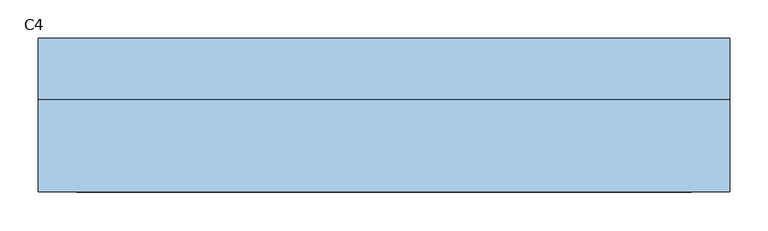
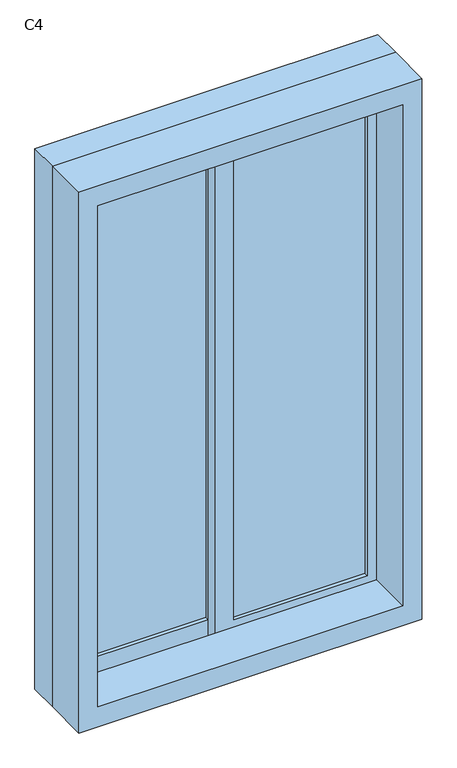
"""IFC4 building model written with IfcOpenShell, lengths in millimetres: window geometry, 推拉窗6 : C4."""

from ifc_helpers import new_model, si_unit, frame, origin, place, context, project, spatial, polyline, outline, extrude, source, transform, mapped, element, save


def c4_cd7c24a5(model_context):
    return source(origin(), model_context, "Body", "SweptSolid", [
        extrude(outline(polyline([(-365.475, 3.1265625), (-15.475, 3.1265625), (-15.475, -6.8734375), (-365.475, -6.8734375), (-365.475, 3.1265625)])), frame((0.0, 0.0, 975.0), z_axis=(0.0, 0.0, 1.0), x_axis=(1.0, 0.0, 0.0)), (0.0, 0.0, 1.0), 1350.0),
        extrude(outline(polyline([(34.525, -26.8734375), (384.525, -26.8734375), (384.525, -36.8734375), (34.525, -36.8734375), (34.525, -26.8734375)])), frame((0.0, 0.0, 975.0), z_axis=(0.0, 0.0, 1.0), x_axis=(1.0, 0.0, 0.0)), (0.0, 0.0, 1.0), 1350.0),
        extrude(outline(polyline([(2400.0, -440.475), (900.0, -440.475), (900.0, 459.525), (2400.0, 459.525), (2400.0, -440.475)]), holes=[polyline([(2345.0, 409.525), (955.0, 409.525), (955.0, -390.475), (2345.0, -390.475), (2345.0, 409.525)])]), frame((0.0, -166.8734375, 0.0), z_axis=(0.0, 1.0, 0.0), x_axis=(0.0, 0.0, 1.0)), (0.0, 0.0, 1.0), 120.0),
        extrude(outline(polyline([(925.0, 34.525), (2375.0, 34.525), (2375.0, -415.475), (925.0, -415.475), (925.0, 34.525)]), holes=[polyline([(975.0, -15.475), (975.0, -365.475), (2325.0, -365.475), (2325.0, -15.475), (975.0, -15.475)])]), frame((0.0, -16.8734375, 0.0), z_axis=(0.0, 1.0, 0.0), x_axis=(0.0, 0.0, 1.0)), (0.0, 0.0, 1.0), 30.0),
        extrude(outline(polyline([(2375.0, -15.475), (925.0, -15.475), (925.0, 434.525), (2375.0, 434.525), (2375.0, -15.475)]), holes=[polyline([(2325.0, 34.525), (2325.0, 384.525), (975.0, 384.525), (975.0, 34.525), (2325.0, 34.525)])]), frame((0.0, -46.8734375, 0.0), z_axis=(0.0, 1.0, 0.0), x_axis=(0.0, 0.0, 1.0)), (0.0, 0.0, 1.0), 30.0),
        extrude(outline(polyline([(2400.0, -440.475), (900.0, -440.475), (900.0, 459.525), (2400.0, 459.525), (2400.0, -440.475)]), holes=[polyline([(925.0, -415.475), (2375.0, -415.475), (2375.0, 434.525), (925.0, 434.525), (925.0, -415.475)])]), frame((0.0, -46.8734375, 0.0), z_axis=(0.0, 1.0, 0.0), x_axis=(0.0, 0.0, 1.0)), (0.0, 0.0, 1.0), 80.0),
    ])


if __name__ == "__main__":
    model = new_model("IFC4")
    model_context = context("Model", 3, world=origin())
    ifc_project = project(units=[si_unit("LENGTHUNIT", "METRE", prefix="MILLI")], contexts=[model_context])
    site = spatial("IfcSite", under=ifc_project)
    building = spatial("IfcBuilding", under=site)
    placement = place(None, origin())
    c4_shape = c4_cd7c24a5(model_context)
    element("IfcWindow", 1, ObjectType="推拉窗6 : C4", at=placement, inside=building, context=model_context, shape_type="MappedRepresentation", body=[
        mapped(c4_shape, transform((0.0, 0.0, 0.0), x_axis=(1.0, 0.0, 0.0), y_axis=(0.0, 1.0, 0.0), z_axis=(0.0, 0.0, 1.0))),
    ])
    save(model, "model.ifc")
